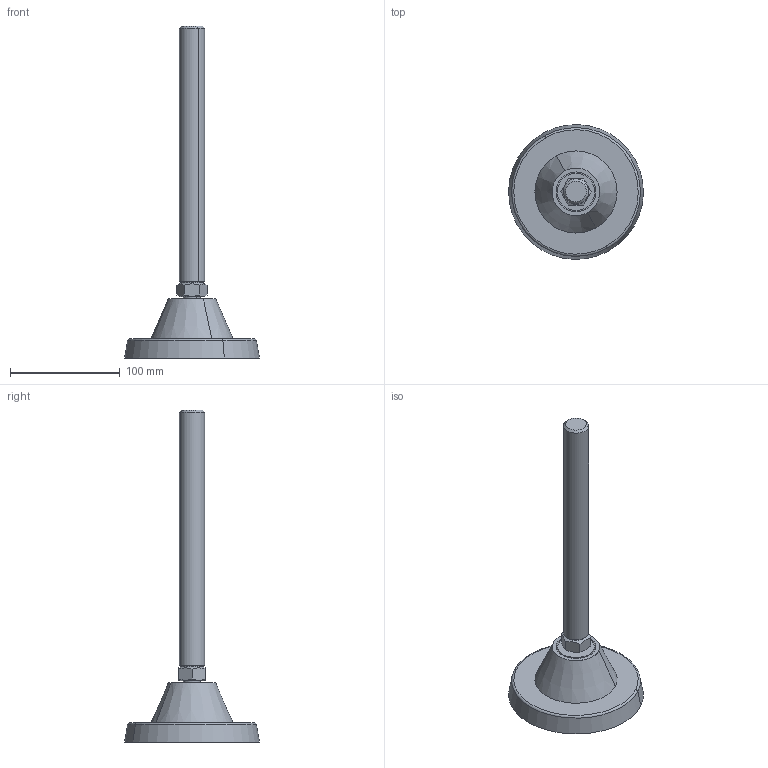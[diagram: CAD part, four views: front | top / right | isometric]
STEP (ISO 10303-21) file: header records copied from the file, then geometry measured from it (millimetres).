
FILE_DESCRIPTION(('CATIA V5 STEP Exchange'),'2;1');
FILE_NAME('C:\Users\ALI OZGUN\Desktop\alhan\ARTICULATED_FEET-PABUCLAR\502122431.stp','2017-09-08T06:28:49+00:00',('none'),('none'),'CATIA Version 5 Release 21 GA (IN-10)','CATIA V5 STEP AP203','none');
FILE_SCHEMA(('CONFIG_CONTROL_DESIGN'));
Length unit declared in the file: millimetre
Products named in the file (1): 502122431
Bounding box: 122.97 x 122.97 x 303 mm (x, y, z)
Volume: 266458.5 mm3; surface area: 81504.5 mm2
Topology: 3 solids, 3 shells, 129 faces, 334 edges, 218 vertices
Faces by surface type: plane 61, cylinder 34, cone 30, torus 2, sphere 2
Entity records: 3887 total; most frequent: CARTESIAN_POINT 1199, ORIENTED_EDGE 668, DIRECTION 336, EDGE_CURVE 334, VERTEX_POINT 218, AXIS2_PLACEMENT_3D 171, EDGE_LOOP 140, ADVANCED_FACE 129
